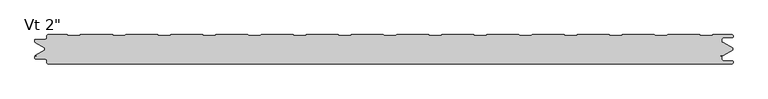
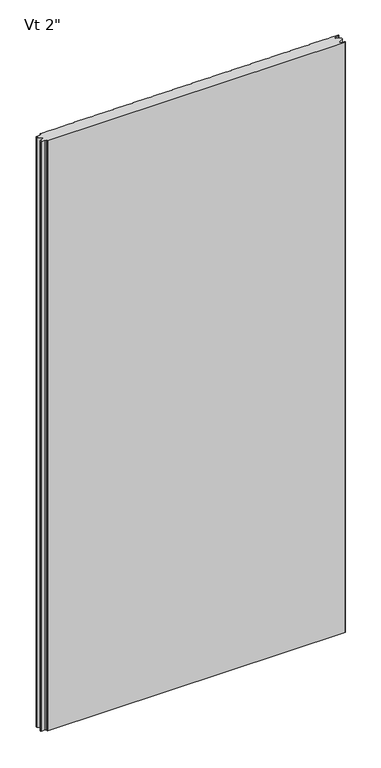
"""IFC4 building model written with IfcOpenShell, lengths in millimetres: plate geometry."""

from ifc_helpers import new_model, si_unit, frame, origin, place, context, project, spatial, polyline, circle_curve, source, transform, mapped, element, save
from ifc_brep_helpers import plane_surface, cylinder_surface, revolved_surface, advanced_brep


def plate_cbcabc05(model_context):
    return source(origin(), model_context, "Body", "AdvancedBrep", [
        advanced_brep(
        [(-572.4119006, -2.9775467, 2400.0), (-572.4119006, -5.2690127, 2400.0), (-576.3894926, -9.2466047, 2400.0), (-591.9862817, -9.2466047, 2400.0), (-592.5740768, -9.8343998, 2400.0), (-592.5740768, -12.9058755, 2400.0), (-591.986223, -13.4937293, 2400.0), (-589.6312064, -13.4937293, 2400.0), (-589.6312064, -14.4937446, 2400.0), (-591.9207851, -14.4937446, 2400.0), (-576.2625, -23.7509179, 2400.0), (-576.2625, -27.0490865, 2400.0), (-591.9207851, -36.3062598, 2400.0), (-589.6312064, -36.3062598, 2400.0), (-589.6312064, -37.3062598, 2400.0), (-591.986242, -37.3062598, 2400.0), (-592.5741186, -37.8941365, 2400.0), (-592.5741186, -40.9656854, 2400.0), (-591.9862417, -41.5535623, 2400.0), (-576.3898173, -41.5535623, 2400.0), (-572.4125501, -45.5308295, 2400.0), (-572.4125501, -47.8227194, 2400.0), (-570.4352761, -49.7999935, 2400.0), (574.5475652, -49.8, 2400.0), (576.5248337, -47.8227315, 2400.0), (576.5248337, -46.7806329, 2400.0), (574.5475652, -44.8033643, 2400.0), (560.3591802, -44.8033643, 2400.0), (557.7713036, -42.2154878, 2400.0), (557.7713036, -37.8950697, 2400.0), (557.1628365, -37.3060762, 2400.0), (554.7857432, -37.3060762, 2400.0), (554.7857432, -36.3066023, 2400.0), (560.2280123, -36.3066023, 2400.0), (576.2625, -27.0490865, 2400.0), (576.2625, -23.7509179, 2400.0), (560.2280123, -14.4934021, 2400.0), (554.7857432, -14.4934021, 2400.0), (554.7857432, -13.4939418, 2400.0), (557.1628475, -13.4939418, 2400.0), (557.7713476, -12.9049279, 2400.0), (557.7713476, -8.5845971, 2400.0), (560.3591411, -5.9968035, 2400.0), (574.5478903, -5.9968035, 2400.0), (576.5254845, -4.0192093, 2400.0), (576.5254845, -2.9770147, 2400.0), (574.548995, -1.0005251, 2400.0), (542.3760351, -1.0005251, 2400.0), (541.3035142, -2.1911639, 2400.0), (521.5205195, -2.1911639, 2400.0), (520.4479947, -1.0000044, 2400.0), (466.7534187, -1.0000044, 2400.0), (465.6808939, -2.1911639, 2400.0), (445.8978992, -2.1911639, 2400.0), (444.8253744, -1.0000044, 2400.0), (391.1307985, -1.0000044, 2400.0), (390.0582736, -2.1911639, 2400.0), (370.275279, -2.1911639, 2400.0), (369.2027541, -1.0000044, 2400.0), (315.5081782, -1.0000044, 2400.0), (314.4356534, -2.1911639, 2400.0), (294.6526587, -2.1911639, 2400.0), (293.5801339, -1.0000044, 2400.0), (239.885558, -1.0000044, 2400.0), (238.8130331, -2.1911639, 2400.0), (219.0300384, -2.1911639, 2400.0), (217.9575136, -1.0000044, 2400.0), (164.2629377, -1.0000044, 2400.0), (163.1904129, -2.1911639, 2400.0), (143.4074182, -2.1911639, 2400.0), (142.3348933, -1.0000044, 2400.0), (88.6403174, -1.0000044, 2400.0), (87.5677926, -2.1911639, 2400.0), (67.7847979, -2.1911639, 2400.0), (66.7122731, -1.0000044, 2400.0), (13.0176972, -1.0000044, 2400.0), (11.9451723, -2.1911639, 2400.0), (-7.8378224, -2.1911639, 2400.0), (-8.9103472, -1.0000044, 2400.0), (-62.6049231, -1.0000044, 2400.0), (-63.6774479, -2.1911639, 2400.0), (-83.4604426, -2.1911639, 2400.0), (-84.5329675, -1.0000044, 2400.0), (-138.2275434, -1.0000044, 2400.0), (-139.3000682, -2.1911639, 2400.0), (-159.0830629, -2.1911639, 2400.0), (-160.1555877, -1.0000044, 2400.0), (-213.8501636, -1.0000044, 2400.0), (-214.9226885, -2.1911639, 2400.0), (-234.7056831, -2.1911639, 2400.0), (-235.778208, -1.0000044, 2400.0), (-289.4727839, -1.0000044, 2400.0), (-290.5453087, -2.1911639, 2400.0), (-310.3283034, -2.1911639, 2400.0), (-311.4008282, -1.0000044, 2400.0), (-365.0954042, -1.0000044, 2400.0), (-366.167929, -2.1911639, 2400.0), (-385.9509237, -2.1911639, 2400.0), (-387.0234485, -1.0000044, 2400.0), (-440.7180244, -1.0000044, 2400.0), (-441.7905493, -2.1911639, 2400.0), (-461.5735439, -2.1911639, 2400.0), (-462.6460688, -1.0000044, 2400.0), (-516.3406447, -1.0000044, 2400.0), (-517.4131695, -2.1911639, 2400.0), (-537.1961642, -2.1911639, 2400.0), (-538.268689, -0.9994917, 2400.0), (-570.4338456, -0.9994917, 2400.0), (-572.4119006, -2.9775467, 0.0), (-570.4338456, -0.9994917, 0.0), (-538.268689, -0.9994917, 0.0), (-537.1961642, -2.1911639, 0.0), (-517.4131695, -2.1911639, 0.0), (-516.3406447, -1.0000044, 0.0), (-462.6460688, -1.0000044, 0.0), (-461.5735439, -2.1911639, 0.0), (-441.7905493, -2.1911639, 0.0), (-440.7180244, -1.0000044, 0.0), (-387.0234485, -1.0000044, 0.0), (-385.9509237, -2.1911639, 0.0), (-366.167929, -2.1911639, 0.0), (-365.0954042, -1.0000044, 0.0), (-311.4008282, -1.0000044, 0.0), (-310.3283034, -2.1911639, 0.0), (-290.5453087, -2.1911639, 0.0), (-289.4727839, -1.0000044, 0.0), (-235.778208, -1.0000044, 0.0), (-234.7056831, -2.1911639, 0.0), (-214.9226885, -2.1911639, 0.0), (-213.8501636, -1.0000044, 0.0), (-160.1555877, -1.0000044, 0.0), (-159.0830629, -2.1911639, 0.0), (-139.3000682, -2.1911639, 0.0), (-138.2275434, -1.0000044, 0.0), (-84.5329675, -1.0000044, 0.0), (-83.4604426, -2.1911639, 0.0), (-63.6774479, -2.1911639, 0.0), (-62.6049231, -1.0000044, 0.0), (-8.9103472, -1.0000044, 0.0), (-7.8378224, -2.1911639, 0.0), (11.9451723, -2.1911639, 0.0), (13.0176972, -1.0000044, 0.0), (66.7122731, -1.0000044, 0.0), (67.7847979, -2.1911639, 0.0), (87.5677926, -2.1911639, 0.0), (88.6403174, -1.0000044, 0.0), (142.3348933, -1.0000044, 0.0), (143.4074182, -2.1911639, 0.0), (163.1904129, -2.1911639, 0.0), (164.2629377, -1.0000044, 0.0), (217.9575136, -1.0000044, 0.0), (219.0300384, -2.1911639, 0.0), (238.8130331, -2.1911639, 0.0), (239.885558, -1.0000044, 0.0), (293.5801339, -1.0000044, 0.0), (294.6526587, -2.1911639, 0.0), (314.4356534, -2.1911639, 0.0), (315.5081782, -1.0000044, 0.0), (369.2027541, -1.0000044, 0.0), (370.275279, -2.1911639, 0.0), (390.0582736, -2.1911639, 0.0), (391.1307985, -1.0000044, 0.0), (444.8253744, -1.0000044, 0.0), (445.8978992, -2.1911639, 0.0), (465.6808939, -2.1911639, 0.0), (466.7534187, -1.0000044, 0.0), (520.4479947, -1.0000044, 0.0), (521.5205195, -2.1911639, 0.0), (541.3035142, -2.1911639, 0.0), (542.3760351, -1.0005251, 0.0), (574.548995, -1.0005251, 0.0), (576.5254845, -2.9770147, 0.0), (576.5254845, -4.0192093, 0.0), (574.5478903, -5.9968035, 0.0), (560.3591411, -5.9968035, 0.0), (557.7713476, -8.5845971, 0.0), (557.7713476, -12.9049279, 0.0), (557.1628475, -13.4939418, 0.0), (554.7857432, -13.4939418, 0.0), (554.7857432, -14.4934021, 0.0), (560.2280123, -14.4934021, 0.0), (576.2625, -23.7509179, 0.0), (576.2625, -27.0490865, 0.0), (560.2280123, -36.3066023, 0.0), (554.7857432, -36.3066023, 0.0), (554.7857432, -37.3060762, 0.0), (557.1628365, -37.3060762, 0.0), (557.7713036, -37.8950697, 0.0), (557.7713036, -42.2154878, 0.0), (560.3591802, -44.8033643, 0.0), (574.5475652, -44.8033643, 0.0), (576.5248337, -46.7806329, 0.0), (576.5248337, -47.8227315, 0.0), (574.5475652, -49.8, 0.0), (-570.4352761, -49.8, 0.0), (-572.4125501, -47.8227194, 0.0), (-572.4125501, -45.5308295, 0.0), (-576.3898173, -41.5535623, 0.0), (-591.9862417, -41.5535623, 0.0), (-592.5741186, -40.9656854, 0.0), (-592.5741186, -37.8941365, 0.0), (-591.986242, -37.3062598, 0.0), (-589.6312064, -37.3062598, 0.0), (-589.6312064, -36.3062598, 0.0), (-591.9207851, -36.3062598, 0.0), (-576.2625, -27.0490865, 0.0), (-576.2625, -23.7509179, 0.0), (-591.9207851, -14.4937446, 0.0), (-589.6312064, -14.4937446, 0.0), (-589.6312064, -13.4937293, 0.0), (-591.986223, -13.4937293, 0.0), (-592.5740768, -12.9058755, 0.0), (-592.5740768, -9.8343998, 0.0), (-591.9862817, -9.2466047, 0.0), (-576.3894926, -9.2466047, 0.0), (-572.4119006, -5.2690127, 0.0)],
        [
            (0, 1),
            (1, 2, circle_curve(frame((-576.3894926, -5.2690127, 2400.0), z_axis=(0.0, 0.0, -1.0), x_axis=(0.0, 1.0, 0.0)), 3.977592)),
            (2, 3),
            (3, 4, circle_curve(frame((-591.9862817, -9.8343998, 2400.0), z_axis=(0.0, 0.0, 1.0), x_axis=(0.0, 1.0, 0.0)), 0.5877951)),
            (4, 5),
            (5, 6, circle_curve(frame((-591.986223, -12.9058755, 2400.0), z_axis=(0.0, 0.0, 1.0), x_axis=(0.0, 1.0, 0.0)), 0.5878538)),
            (6, 7),
            (7, 8),
            (8, 9),
            (9, 10),
            (10, 11),
            (11, 12),
            (12, 13),
            (13, 14),
            (14, 15),
            (15, 16, circle_curve(frame((-591.986242, -37.8941365, 2400.0), z_axis=(0.0, 0.0, 1.0), x_axis=(0.0, 1.0, 0.0)), 0.5878766)),
            (16, 17),
            (17, 18, circle_curve(frame((-591.9862417, -40.9656854, 2400.0), z_axis=(0.0, 0.0, 1.0), x_axis=(0.0, 1.0, 0.0)), 0.5878769)),
            (18, 19),
            (19, 20, circle_curve(frame((-576.3898173, -45.5308295, 2400.0), z_axis=(0.0, 0.0, -1.0), x_axis=(0.0, 1.0, 0.0)), 3.9772671)),
            (20, 21),
            (21, 22, circle_curve(frame((-570.4352761, -47.8227194, 2400.0), z_axis=(0.0, 0.0, 1.0), x_axis=(0.0, 1.0, 0.0)), 1.977274)),
            (22, 23),
            (23, 24, circle_curve(frame((574.5475652, -47.8227315, 2400.0), z_axis=(0.0, 0.0, 1.0), x_axis=(0.0, 1.0, 0.0)), 1.9772685)),
            (24, 25),
            (25, 26, circle_curve(frame((574.5475652, -46.7806329, 2400.0), z_axis=(0.0, 0.0, 1.0), x_axis=(0.0, 1.0, 0.0)), 1.9772685)),
            (26, 27),
            (27, 28, circle_curve(frame((560.3591802, -42.2154878, 2400.0), z_axis=(0.0, 0.0, -1.0), x_axis=(0.0, 1.0, 0.0)), 2.5878765)),
            (28, 29),
            (29, 30, circle_curve(frame((557.1819985, -37.8950697, 2400.0), z_axis=(0.0, 0.0, 1.0), x_axis=(0.0, 1.0, 0.0)), 0.5893051)),
            (30, 31),
            (31, 32),
            (32, 33),
            (33, 34),
            (34, 35),
            (35, 36),
            (36, 37),
            (37, 38),
            (38, 39),
            (39, 40, circle_curve(frame((557.1820216, -12.9049279, 2400.0), z_axis=(0.0, 0.0, 1.0), x_axis=(0.0, 1.0, 0.0)), 0.589326)),
            (40, 41),
            (41, 42, circle_curve(frame((560.3591411, -8.5845971, 2400.0), z_axis=(0.0, 0.0, -1.0), x_axis=(0.0, 1.0, 0.0)), 2.5877935)),
            (42, 43),
            (43, 44, circle_curve(frame((574.5478903, -4.0192093, 2400.0), z_axis=(0.0, 0.0, 1.0), x_axis=(0.0, 1.0, 0.0)), 1.9775943)),
            (44, 45),
            (45, 46, circle_curve(frame((574.548995, -2.9770147, 2400.0), z_axis=(0.0, 0.0, 1.0), x_axis=(0.0, 1.0, 0.0)), 1.9764896)),
            (46, 47),
            (47, 48),
            (48, 49),
            (49, 50),
            (50, 51),
            (51, 52),
            (52, 53),
            (53, 54),
            (54, 55),
            (55, 56),
            (56, 57),
            (57, 58),
            (58, 59),
            (59, 60),
            (60, 61),
            (61, 62),
            (62, 63),
            (63, 64),
            (64, 65),
            (65, 66),
            (66, 67),
            (67, 68),
            (68, 69),
            (69, 70),
            (70, 71),
            (71, 72),
            (72, 73),
            (73, 74),
            (74, 75),
            (75, 76),
            (76, 77),
            (77, 78),
            (78, 79),
            (79, 80),
            (80, 81),
            (81, 82),
            (82, 83),
            (83, 84),
            (84, 85),
            (85, 86),
            (86, 87),
            (87, 88),
            (88, 89),
            (89, 90),
            (90, 91),
            (91, 92),
            (92, 93),
            (93, 94),
            (94, 95),
            (95, 96),
            (96, 97),
            (97, 98),
            (98, 99),
            (99, 100),
            (100, 101),
            (101, 102),
            (102, 103),
            (103, 104),
            (104, 105),
            (105, 106),
            (106, 107),
            (107, 0, circle_curve(frame((-570.4338456, -2.9775467, 2400.0), z_axis=(0.0, 0.0, 1.0), x_axis=(0.0, 1.0, 0.0)), 1.978055)),
            (108, 109, circle_curve(frame((-570.4338456, -2.9775467, 0.0), z_axis=(0.0, 0.0, -1.0), x_axis=(0.0, 1.0, 0.0)), 1.978055)),
            (109, 110),
            (110, 111),
            (111, 112),
            (112, 113),
            (113, 114),
            (114, 115),
            (115, 116),
            (116, 117),
            (117, 118),
            (118, 119),
            (119, 120),
            (120, 121),
            (121, 122),
            (122, 123),
            (123, 124),
            (124, 125),
            (125, 126),
            (126, 127),
            (127, 128),
            (128, 129),
            (129, 130),
            (130, 131),
            (131, 132),
            (132, 133),
            (133, 134),
            (134, 135),
            (135, 136),
            (136, 137),
            (137, 138),
            (138, 139),
            (139, 140),
            (140, 141),
            (141, 142),
            (142, 143),
            (143, 144),
            (144, 145),
            (145, 146),
            (146, 147),
            (147, 148),
            (148, 149),
            (149, 150),
            (150, 151),
            (151, 152),
            (152, 153),
            (153, 154),
            (154, 155),
            (155, 156),
            (156, 157),
            (157, 158),
            (158, 159),
            (159, 160),
            (160, 161),
            (161, 162),
            (162, 163),
            (163, 164),
            (164, 165),
            (165, 166),
            (166, 167),
            (167, 168),
            (168, 169),
            (169, 170),
            (170, 171, circle_curve(frame((574.548995, -2.9770147, 0.0), z_axis=(0.0, 0.0, -1.0), x_axis=(0.0, 1.0, 0.0)), 1.9764896)),
            (171, 172),
            (172, 173, circle_curve(frame((574.5478903, -4.0192093, 0.0), z_axis=(0.0, 0.0, -1.0), x_axis=(0.0, 1.0, 0.0)), 1.9775943)),
            (173, 174),
            (174, 175, circle_curve(frame((560.3591411, -8.5845971, 0.0), z_axis=(0.0, 0.0, 1.0), x_axis=(0.0, 1.0, 0.0)), 2.5877935)),
            (175, 176),
            (176, 177, circle_curve(frame((557.1820216, -12.9049279, 0.0), z_axis=(0.0, 0.0, -1.0), x_axis=(0.0, 1.0, 0.0)), 0.589326)),
            (177, 178),
            (178, 179),
            (179, 180),
            (180, 181),
            (181, 182),
            (182, 183),
            (183, 184),
            (184, 185),
            (185, 186),
            (186, 187, circle_curve(frame((557.1819985, -37.8950697, 0.0), z_axis=(0.0, 0.0, -1.0), x_axis=(0.0, 1.0, 0.0)), 0.5893051)),
            (187, 188),
            (188, 189, circle_curve(frame((560.3591802, -42.2154878, 0.0), z_axis=(0.0, 0.0, 1.0), x_axis=(0.0, 1.0, 0.0)), 2.5878765)),
            (189, 190),
            (190, 191, circle_curve(frame((574.5475652, -46.7806329, 0.0), z_axis=(0.0, 0.0, -1.0), x_axis=(0.0, 1.0, 0.0)), 1.9772685)),
            (191, 192),
            (192, 193, circle_curve(frame((574.5475652, -47.8227315, 0.0), z_axis=(0.0, 0.0, -1.0), x_axis=(0.0, 1.0, 0.0)), 1.9772685)),
            (193, 194),
            (194, 195, circle_curve(frame((-570.4352761, -47.8227194, 0.0), z_axis=(0.0, 0.0, -1.0), x_axis=(0.0, 1.0, 0.0)), 1.977274)),
            (195, 196),
            (196, 197, circle_curve(frame((-576.3898173, -45.5308295, 0.0), z_axis=(0.0, 0.0, 1.0), x_axis=(0.0, 1.0, 0.0)), 3.9772671)),
            (197, 198),
            (198, 199, circle_curve(frame((-591.9862417, -40.9656854, 0.0), z_axis=(0.0, 0.0, -1.0), x_axis=(0.0, 1.0, 0.0)), 0.5878769)),
            (199, 200),
            (200, 201, circle_curve(frame((-591.986242, -37.8941365, 0.0), z_axis=(0.0, 0.0, -1.0), x_axis=(0.0, 1.0, 0.0)), 0.5878766)),
            (201, 202),
            (202, 203),
            (203, 204),
            (204, 205),
            (205, 206),
            (206, 207),
            (207, 208),
            (208, 209),
            (209, 210),
            (210, 211, circle_curve(frame((-591.986223, -12.9058755, 0.0), z_axis=(0.0, 0.0, -1.0), x_axis=(0.0, 1.0, 0.0)), 0.5878538)),
            (211, 212),
            (212, 213, circle_curve(frame((-591.9862817, -9.8343998, 0.0), z_axis=(0.0, 0.0, -1.0), x_axis=(0.0, 1.0, 0.0)), 0.5877951)),
            (213, 214),
            (214, 215, circle_curve(frame((-576.3894926, -5.2690127, 0.0), z_axis=(0.0, 0.0, 1.0), x_axis=(0.0, 1.0, 0.0)), 3.977592)),
            (215, 108),
            (107, 109),
            (108, 0),
            (215, 1),
            (214, 2),
            (213, 3),
            (212, 4),
            (211, 5),
            (210, 6),
            (209, 7),
            (208, 8),
            (207, 9),
            (36, 180),
            (179, 37),
            (178, 38),
            (177, 39),
            (176, 40),
            (175, 41),
            (174, 42),
            (173, 43),
            (172, 44),
            (171, 45),
            (170, 46),
            (35, 181),
            (206, 10),
            (21, 195),
            (194, 22),
            (20, 196),
            (19, 197),
            (18, 198),
            (17, 199),
            (16, 200),
            (15, 201),
            (14, 202),
            (13, 203),
            (12, 204),
            (32, 184),
            (183, 33),
            (31, 185),
            (30, 186),
            (29, 187),
            (28, 188),
            (27, 189),
            (26, 190),
            (25, 191),
            (24, 192),
            (23, 193),
            (182, 34),
            (11, 205),
            (169, 47),
            (48, 168),
            (167, 49),
            (166, 50),
            (165, 51),
            (164, 52),
            (163, 53),
            (162, 54),
            (161, 55),
            (160, 56),
            (159, 57),
            (158, 58),
            (157, 59),
            (156, 60),
            (155, 61),
            (154, 62),
            (153, 63),
            (152, 64),
            (151, 65),
            (150, 66),
            (149, 67),
            (148, 68),
            (147, 69),
            (146, 70),
            (145, 71),
            (144, 72),
            (143, 73),
            (142, 74),
            (141, 75),
            (140, 76),
            (139, 77),
            (138, 78),
            (137, 79),
            (136, 80),
            (135, 81),
            (134, 82),
            (133, 83),
            (132, 84),
            (131, 85),
            (130, 86),
            (129, 87),
            (128, 88),
            (127, 89),
            (126, 90),
            (125, 91),
            (124, 92),
            (123, 93),
            (122, 94),
            (121, 95),
            (120, 96),
            (119, 97),
            (118, 98),
            (117, 99),
            (116, 100),
            (115, 101),
            (114, 102),
            (113, 103),
            (112, 104),
            (111, 105),
            (110, 106),
        ],
        [
            plane_surface(frame((0.0, -49.8, 2400.0), z_axis=(0.0, 0.0, 1.0), x_axis=(0.0, -1.0, 0.0))),
            plane_surface(frame((0.0, -49.8, 0.0), z_axis=(0.0, 0.0, -1.0), x_axis=(0.0, -1.0, 0.0))),
            cylinder_surface(frame((-570.4338456, -2.9775467, 2400.0), z_axis=(0.0, 0.0, 1.0), x_axis=(0.0, 1.0, 0.0)), 1.978055),
            plane_surface(frame((-572.4119006, -5.2690127, 2400.0), z_axis=(-1.0, 0.0, 0.0), x_axis=(0.0, 0.0, -1.0))),
            revolved_surface(polyline([(-576.3894926, -1.2914207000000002, 0.0), (-576.3894926, -1.2914207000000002, 2400.0)]), (-576.3894926, -5.2690127, 2400.0), (0.0, 0.0, -1.0)),
            plane_surface(frame((-591.9862817, -9.2466047, 2400.0), z_axis=(0.0, 1.0, 0.0), x_axis=(0.0, 0.0, -1.0))),
            cylinder_surface(frame((-591.9862817, -9.8343998, 2400.0), z_axis=(0.0, 0.0, 1.0), x_axis=(0.0, 1.0, 0.0)), 0.5877951),
            plane_surface(frame((-592.5740768, -12.9058755, 2400.0), z_axis=(-1.0, 0.0, 0.0), x_axis=(0.0, 0.0, -1.0))),
            cylinder_surface(frame((-591.986223, -12.9058755, 2400.0), z_axis=(0.0, 0.0, 1.0), x_axis=(0.0, 1.0, 0.0)), 0.5878538),
            plane_surface(frame((-589.6312064, -13.4937293, 2400.0), z_axis=(0.0, -1.0, 0.0), x_axis=(0.0, 0.0, -1.0))),
            plane_surface(frame((-589.6312064, -14.4937446, 2400.0), z_axis=(-1.0, 0.0, 0.0), x_axis=(0.0, 0.0, -1.0))),
            plane_surface(frame((-591.9207851, -14.4937446, 2400.0), z_axis=(0.0, 1.0, 0.0), x_axis=(0.0, 0.0, -1.0))),
            plane_surface(frame((554.7857432, -14.4934021, 2400.0), z_axis=(0.0, 1.0, 0.0), x_axis=(0.0, 0.0, -1.0))),
            plane_surface(frame((554.7857432, -13.4939418, 2400.0), z_axis=(1.0, 0.0, 0.0), x_axis=(0.0, 0.0, -1.0))),
            plane_surface(frame((557.1628475, -13.4939418, 2400.0), z_axis=(0.0, -1.0, 0.0), x_axis=(0.0, 0.0, -1.0))),
            cylinder_surface(frame((557.1820216, -12.9049279, 2400.0), z_axis=(0.0, 0.0, 1.0), x_axis=(0.0, 1.0, 0.0)), 0.589326),
            plane_surface(frame((557.7713476, -8.5845971, 2400.0), z_axis=(1.0, 0.0, 0.0), x_axis=(0.0, 0.0, -1.0))),
            revolved_surface(polyline([(560.3591411, -5.9968036, 0.0), (560.3591411, -5.9968036, 2400.0)]), (560.3591411, -8.5845971, 2400.0), (0.0, 0.0, -1.0)),
            plane_surface(frame((574.5478903, -5.9968035, 2400.0), z_axis=(0.0, -1.0, 0.0), x_axis=(0.0, 0.0, -1.0))),
            cylinder_surface(frame((574.5478903, -4.0192093, 2400.0), z_axis=(0.0, 0.0, 1.0), x_axis=(0.0, 1.0, 0.0)), 1.9775943),
            plane_surface(frame((576.5254845, -2.9770147, 2400.0), z_axis=(1.0, 0.0, 0.0), x_axis=(0.0, 0.0, -1.0))),
            cylinder_surface(frame((574.548995, -2.9770147, 2400.0), z_axis=(0.0, 0.0, 1.0), x_axis=(0.0, 1.0, 0.0)), 1.9764896),
            plane_surface(frame((560.2280123, -14.4934021, 2400.0), z_axis=(0.500000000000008, 0.8660254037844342, 0.0), x_axis=(0.0, 0.0, -1.0))),
            plane_surface(frame((-576.2625, -23.7509179, 2400.0), z_axis=(-0.5089147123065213, -0.860816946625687, 0.0), x_axis=(0.0, 0.0, -1.0))),
            cylinder_surface(frame((-570.4352761, -47.8227194, 2400.0), z_axis=(0.0, 0.0, 1.0), x_axis=(0.0, 1.0, 0.0)), 1.977274),
            plane_surface(frame((-572.4125501, -47.8227194, 2400.0), z_axis=(-1.0, 0.0, 0.0), x_axis=(0.0, 0.0, -1.0))),
            revolved_surface(polyline([(-576.3898173, -41.553562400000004, 0.0), (-576.3898173, -41.553562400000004, 2400.0)]), (-576.3898173, -45.5308295, 2400.0), (0.0, 0.0, -1.0)),
            plane_surface(frame((-576.3898173, -41.5535623, 2400.0), z_axis=(0.0, -1.0, 0.0), x_axis=(0.0, 0.0, -1.0))),
            cylinder_surface(frame((-591.9862417, -40.9656854, 2400.0), z_axis=(0.0, 0.0, 1.0), x_axis=(0.0, 1.0, 0.0)), 0.5878769),
            plane_surface(frame((-592.5741186, -40.9656854, 2400.0), z_axis=(-1.0, 0.0, 0.0), x_axis=(0.0, 0.0, -1.0))),
            cylinder_surface(frame((-591.986242, -37.8941365, 2400.0), z_axis=(0.0, 0.0, 1.0), x_axis=(0.0, 1.0, 0.0)), 0.5878766),
            plane_surface(frame((-591.986242, -37.3062598, 2400.0), z_axis=(0.0, 1.0, 0.0), x_axis=(0.0, 0.0, -1.0))),
            plane_surface(frame((-589.6312064, -37.3062598, 2400.0), z_axis=(-1.0, 0.0, 0.0), x_axis=(0.0, 0.0, -1.0))),
            plane_surface(frame((-589.6312064, -36.3062598, 2400.0), z_axis=(0.0, -1.0, 0.0), x_axis=(0.0, 0.0, -1.0))),
            plane_surface(frame((560.2280123, -36.3066023, 2400.0), z_axis=(0.0, -1.0, 0.0), x_axis=(0.0, 0.0, -1.0))),
            plane_surface(frame((554.7857432, -36.3066023, 2400.0), z_axis=(1.0, 0.0, 0.0), x_axis=(0.0, 0.0, -1.0))),
            plane_surface(frame((554.7857432, -37.3060762, 2400.0), z_axis=(0.0, 1.0, 0.0), x_axis=(0.0, 0.0, -1.0))),
            cylinder_surface(frame((557.1819985, -37.8950697, 2400.0), z_axis=(0.0, 0.0, 1.0), x_axis=(0.0, 1.0, 0.0)), 0.5893051),
            plane_surface(frame((557.7713036, -37.8950697, 2400.0), z_axis=(1.0, 0.0, 0.0), x_axis=(0.0, 0.0, -1.0))),
            revolved_surface(polyline([(560.3591802, -39.6276113, 0.0), (560.3591802, -39.6276113, 2400.0)]), (560.3591802, -42.2154878, 2400.0), (0.0, 0.0, -1.0)),
            plane_surface(frame((560.3591802, -44.8033643, 2400.0), z_axis=(0.0, 1.0, 0.0), x_axis=(0.0, 0.0, -1.0))),
            cylinder_surface(frame((574.5475652, -46.7806329, 2400.0), z_axis=(0.0, 0.0, 1.0), x_axis=(0.0, 1.0, 0.0)), 1.9772685),
            plane_surface(frame((576.5248337, -46.7806329, 2400.0), z_axis=(1.0, 0.0, 0.0), x_axis=(0.0, 0.0, -1.0))),
            cylinder_surface(frame((574.5475652, -47.8227315, 2400.0), z_axis=(0.0, 0.0, 1.0), x_axis=(0.0, 1.0, 0.0)), 1.9772685),
            plane_surface(frame((574.5475652, -49.8, 2400.0), z_axis=(0.0, -1.0, 0.0), x_axis=(0.0, 0.0, -1.0))),
            plane_surface(frame((576.2625, -27.0490865, 2400.0), z_axis=(0.500000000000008, -0.8660254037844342, 0.0), x_axis=(0.0, 0.0, -1.0))),
            plane_surface(frame((-591.9207851, -36.3062598, 2400.0), z_axis=(-0.5089147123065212, 0.860816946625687, 0.0), x_axis=(0.0, 0.0, -1.0))),
            plane_surface(frame((576.2625, -23.7509179, 2400.0), z_axis=(1.0, 0.0, 0.0), x_axis=(0.0, 0.0, -1.0))),
            plane_surface(frame((-576.2625, -27.0490865, 2400.0), z_axis=(-1.0, 0.0, 0.0), x_axis=(0.0, 0.0, -1.0))),
            plane_surface(frame((542.3760351, -1.0005251, 2400.0), z_axis=(0.0, 1.0, 0.0), x_axis=(0.0, 0.0, -1.0))),
            plane_surface(frame((521.5205195, -2.1911639, 2400.0), z_axis=(0.0, 1.0, 0.0), x_axis=(0.0, 0.0, -1.0))),
            plane_surface(frame((520.4479947, -1.0000044, 2400.0), z_axis=(0.7431448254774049, 0.6691306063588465, 0.0), x_axis=(0.0, 0.0, -1.0))),
            plane_surface(frame((466.7534187, -1.0000044, 2400.0), z_axis=(0.0, 1.0, 0.0), x_axis=(0.0, 0.0, -1.0))),
            plane_surface(frame((465.6808939, -2.1911639, 2400.0), z_axis=(-0.7431448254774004, 0.6691306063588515, 0.0), x_axis=(0.0, 0.0, -1.0))),
            plane_surface(frame((445.8978992, -2.1911639, 2400.0), z_axis=(0.0, 1.0, 0.0), x_axis=(0.0, 0.0, -1.0))),
            plane_surface(frame((444.8253744, -1.0000044, 2400.0), z_axis=(0.7431448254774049, 0.6691306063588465, 0.0), x_axis=(0.0, 0.0, -1.0))),
            plane_surface(frame((391.1307985, -1.0000044, 2400.0), z_axis=(0.0, 1.0, 0.0), x_axis=(0.0, 0.0, -1.0))),
            plane_surface(frame((390.0582736, -2.1911639, 2400.0), z_axis=(-0.7431448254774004, 0.6691306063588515, 0.0), x_axis=(0.0, 0.0, -1.0))),
            plane_surface(frame((370.275279, -2.1911639, 2400.0), z_axis=(0.0, 1.0, 0.0), x_axis=(0.0, 0.0, -1.0))),
            plane_surface(frame((369.2027541, -1.0000044, 2400.0), z_axis=(0.7431448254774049, 0.6691306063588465, 0.0), x_axis=(0.0, 0.0, -1.0))),
            plane_surface(frame((315.5081782, -1.0000044, 2400.0), z_axis=(0.0, 1.0, 0.0), x_axis=(0.0, 0.0, -1.0))),
            plane_surface(frame((314.4356534, -2.1911639, 2400.0), z_axis=(-0.7431448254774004, 0.6691306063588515, 0.0), x_axis=(0.0, 0.0, -1.0))),
            plane_surface(frame((294.6526587, -2.1911639, 2400.0), z_axis=(0.0, 1.0, 0.0), x_axis=(0.0, 0.0, -1.0))),
            plane_surface(frame((293.5801339, -1.0000044, 2400.0), z_axis=(0.7431448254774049, 0.6691306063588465, 0.0), x_axis=(0.0, 0.0, -1.0))),
            plane_surface(frame((239.885558, -1.0000044, 2400.0), z_axis=(0.0, 1.0, 0.0), x_axis=(0.0, 0.0, -1.0))),
            plane_surface(frame((238.8130331, -2.1911639, 2400.0), z_axis=(-0.7431448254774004, 0.6691306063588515, 0.0), x_axis=(0.0, 0.0, -1.0))),
            plane_surface(frame((219.0300384, -2.1911639, 2400.0), z_axis=(0.0, 1.0, 0.0), x_axis=(0.0, 0.0, -1.0))),
            plane_surface(frame((217.9575136, -1.0000044, 2400.0), z_axis=(0.7431448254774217, 0.6691306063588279, 0.0), x_axis=(0.0, 0.0, -1.0))),
            plane_surface(frame((164.2629377, -1.0000044, 2400.0), z_axis=(0.0, 1.0, 0.0), x_axis=(0.0, 0.0, -1.0))),
            plane_surface(frame((163.1904129, -2.1911639, 2400.0), z_axis=(-0.7431448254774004, 0.6691306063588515, 0.0), x_axis=(0.0, 0.0, -1.0))),
            plane_surface(frame((143.4074182, -2.1911639, 2400.0), z_axis=(0.0, 1.0, 0.0), x_axis=(0.0, 0.0, -1.0))),
            plane_surface(frame((142.3348933, -1.0000044, 2400.0), z_axis=(0.7431448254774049, 0.6691306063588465, 0.0), x_axis=(0.0, 0.0, -1.0))),
            plane_surface(frame((88.6403174, -1.0000044, 2400.0), z_axis=(0.0, 1.0, 0.0), x_axis=(0.0, 0.0, -1.0))),
            plane_surface(frame((87.5677926, -2.1911639, 2400.0), z_axis=(-0.7431448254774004, 0.6691306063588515, 0.0), x_axis=(0.0, 0.0, -1.0))),
            plane_surface(frame((67.7847979, -2.1911639, 2400.0), z_axis=(0.0, 1.0, 0.0), x_axis=(0.0, 0.0, -1.0))),
            plane_surface(frame((66.7122731, -1.0000044, 2400.0), z_axis=(0.7431448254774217, 0.6691306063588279, 0.0), x_axis=(0.0, 0.0, -1.0))),
            plane_surface(frame((13.0176972, -1.0000044, 2400.0), z_axis=(0.0, 1.0, 0.0), x_axis=(0.0, 0.0, -1.0))),
            plane_surface(frame((11.9451723, -2.1911639, 2400.0), z_axis=(-0.7431448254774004, 0.6691306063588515, 0.0), x_axis=(0.0, 0.0, -1.0))),
            plane_surface(frame((-7.8378224, -2.1911639, 2400.0), z_axis=(0.0, 1.0, 0.0), x_axis=(0.0, 0.0, -1.0))),
            plane_surface(frame((-8.9103472, -1.0000044, 2400.0), z_axis=(0.7431448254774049, 0.6691306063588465, 0.0), x_axis=(0.0, 0.0, -1.0))),
            plane_surface(frame((-62.6049231, -1.0000044, 2400.0), z_axis=(0.0, 1.0, 0.0), x_axis=(0.0, 0.0, -1.0))),
            plane_surface(frame((-63.6774479, -2.1911639, 2400.0), z_axis=(-0.7431448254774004, 0.6691306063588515, 0.0), x_axis=(0.0, 0.0, -1.0))),
            plane_surface(frame((-83.4604426, -2.1911639, 2400.0), z_axis=(0.0, 1.0, 0.0), x_axis=(0.0, 0.0, -1.0))),
            plane_surface(frame((-84.5329675, -1.0000044, 2400.0), z_axis=(0.7431448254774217, 0.6691306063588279, 0.0), x_axis=(0.0, 0.0, -1.0))),
            plane_surface(frame((-138.2275434, -1.0000044, 2400.0), z_axis=(0.0, 1.0, 0.0), x_axis=(0.0, 0.0, -1.0))),
            plane_surface(frame((-139.3000682, -2.1911639, 2400.0), z_axis=(-0.7431448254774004, 0.6691306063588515, 0.0), x_axis=(0.0, 0.0, -1.0))),
            plane_surface(frame((-159.0830629, -2.1911639, 2400.0), z_axis=(0.0, 1.0, 0.0), x_axis=(0.0, 0.0, -1.0))),
            plane_surface(frame((-160.1555877, -1.0000044, 2400.0), z_axis=(0.7431448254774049, 0.6691306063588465, 0.0), x_axis=(0.0, 0.0, -1.0))),
            plane_surface(frame((-213.8501636, -1.0000044, 2400.0), z_axis=(0.0, 1.0, 0.0), x_axis=(0.0, 0.0, -1.0))),
            plane_surface(frame((-214.9226885, -2.1911639, 2400.0), z_axis=(-0.7431448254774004, 0.6691306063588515, 0.0), x_axis=(0.0, 0.0, -1.0))),
            plane_surface(frame((-234.7056831, -2.1911639, 2400.0), z_axis=(0.0, 1.0, 0.0), x_axis=(0.0, 0.0, -1.0))),
            plane_surface(frame((-235.778208, -1.0000044, 2400.0), z_axis=(0.7431448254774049, 0.6691306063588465, 0.0), x_axis=(0.0, 0.0, -1.0))),
            plane_surface(frame((-289.4727839, -1.0000044, 2400.0), z_axis=(0.0, 1.0, 0.0), x_axis=(0.0, 0.0, -1.0))),
            plane_surface(frame((-290.5453087, -2.1911639, 2400.0), z_axis=(-0.7431448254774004, 0.6691306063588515, 0.0), x_axis=(0.0, 0.0, -1.0))),
            plane_surface(frame((-310.3283034, -2.1911639, 2400.0), z_axis=(0.0, 1.0, 0.0), x_axis=(0.0, 0.0, -1.0))),
            plane_surface(frame((-311.4008282, -1.0000044, 2400.0), z_axis=(0.7431448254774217, 0.6691306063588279, 0.0), x_axis=(0.0, 0.0, -1.0))),
            plane_surface(frame((-365.0954042, -1.0000044, 2400.0), z_axis=(0.0, 1.0, 0.0), x_axis=(0.0, 0.0, -1.0))),
            plane_surface(frame((-366.167929, -2.1911639, 2400.0), z_axis=(-0.7431448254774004, 0.6691306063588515, 0.0), x_axis=(0.0, 0.0, -1.0))),
            plane_surface(frame((-385.9509237, -2.1911639, 2400.0), z_axis=(0.0, 1.0, 0.0), x_axis=(0.0, 0.0, -1.0))),
            plane_surface(frame((-387.0234485, -1.0000044, 2400.0), z_axis=(0.7431448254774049, 0.6691306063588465, 0.0), x_axis=(0.0, 0.0, -1.0))),
            plane_surface(frame((-440.7180244, -1.0000044, 2400.0), z_axis=(0.0, 1.0, 0.0), x_axis=(0.0, 0.0, -1.0))),
            plane_surface(frame((-441.7905493, -2.1911639, 2400.0), z_axis=(-0.7431448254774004, 0.6691306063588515, 0.0), x_axis=(0.0, 0.0, -1.0))),
            plane_surface(frame((-461.5735439, -2.1911639, 2400.0), z_axis=(0.0, 1.0, 0.0), x_axis=(0.0, 0.0, -1.0))),
            plane_surface(frame((-462.6460688, -1.0000044, 2400.0), z_axis=(0.7431448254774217, 0.6691306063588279, 0.0), x_axis=(0.0, 0.0, -1.0))),
            plane_surface(frame((-516.3406447, -1.0000044, 2400.0), z_axis=(0.0, 1.0, 0.0), x_axis=(0.0, 0.0, -1.0))),
            plane_surface(frame((-517.4131695, -2.1911639, 2400.0), z_axis=(-0.7431448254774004, 0.6691306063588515, 0.0), x_axis=(0.0, 0.0, -1.0))),
            plane_surface(frame((-537.1961642, -2.1911639, 2400.0), z_axis=(0.0, 1.0, 0.0), x_axis=(0.0, 0.0, -1.0))),
            plane_surface(frame((-538.268689, -0.9994917, 2400.0), z_axis=(0.7432879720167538, 0.6689715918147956, 0.0), x_axis=(0.0, 0.0, -1.0))),
            plane_surface(frame((541.3035142, -2.1911639, 2400.0), z_axis=(-0.7430005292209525, 0.6692908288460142, 0.0), x_axis=(0.0, 0.0, -1.0))),
            plane_surface(frame((-570.4338456, -0.9994917, 2400.0), z_axis=(0.0, 1.0, 0.0), x_axis=(0.0, 0.0, -1.0))),
        ],
        [
            (0, [[1, 2, 3, 4, 5, 6, 7, 8, 9, 10, 11, 12, 13, 14, 15, 16, 17, 18, 19, 20, 21, 22, 23, 24, 25, 26, 27, 28, 29, 30, 31, 32, 33, 34, 35, 36, 37, 38, 39, 40, 41, 42, 43, 44, 45, 46, 47, 48, 49, 50, 51, 52, 53, 54, 55, 56, 57, 58, 59, 60, 61, 62, 63, 64, 65, 66, 67, 68, 69, 70, 71, 72, 73, 74, 75, 76, 77, 78, 79, 80, 81, 82, 83, 84, 85, 86, 87, 88, 89, 90, 91, 92, 93, 94, 95, 96, 97, 98, 99, 100, 101, 102, 103, 104, 105, 106, 107, 108]]),
            (1, [[109, 110, 111, 112, 113, 114, 115, 116, 117, 118, 119, 120, 121, 122, 123, 124, 125, 126, 127, 128, 129, 130, 131, 132, 133, 134, 135, 136, 137, 138, 139, 140, 141, 142, 143, 144, 145, 146, 147, 148, 149, 150, 151, 152, 153, 154, 155, 156, 157, 158, 159, 160, 161, 162, 163, 164, 165, 166, 167, 168, 169, 170, 171, 172, 173, 174, 175, 176, 177, 178, 179, 180, 181, 182, 183, 184, 185, 186, 187, 188, 189, 190, 191, 192, 193, 194, 195, 196, 197, 198, 199, 200, 201, 202, 203, 204, 205, 206, 207, 208, 209, 210, 211, 212, 213, 214, 215, 216]]),
            (2, [[217, -109, 218, -108]]),
            (3, [[-218, -216, 219, -1]]),
            (4, [[-219, -215, 220, -2]]),
            (5, [[-220, -214, 221, -3]]),
            (6, [[-221, -213, 222, -4]]),
            (7, [[-222, -212, 223, -5]]),
            (8, [[-223, -211, 224, -6]]),
            (9, [[-224, -210, 225, -7]]),
            (10, [[-225, -209, 226, -8]]),
            (11, [[-226, -208, 227, -9]]),
            (12, [[228, -180, 229, -37]]),
            (13, [[-229, -179, 230, -38]]),
            (14, [[-230, -178, 231, -39]]),
            (15, [[-231, -177, 232, -40]]),
            (16, [[-232, -176, 233, -41]]),
            (17, [[-233, -175, 234, -42]]),
            (18, [[-234, -174, 235, -43]]),
            (19, [[-235, -173, 236, -44]]),
            (20, [[-236, -172, 237, -45]]),
            (21, [[-237, -171, 238, -46]]),
            (22, [[239, -181, -228, -36]]),
            (23, [[-227, -207, 240, -10]]),
            (24, [[241, -195, 242, -22]]),
            (25, [[243, -196, -241, -21]]),
            (26, [[244, -197, -243, -20]]),
            (27, [[245, -198, -244, -19]]),
            (28, [[246, -199, -245, -18]]),
            (29, [[247, -200, -246, -17]]),
            (30, [[248, -201, -247, -16]]),
            (31, [[249, -202, -248, -15]]),
            (32, [[250, -203, -249, -14]]),
            (33, [[251, -204, -250, -13]]),
            (34, [[252, -184, 253, -33]]),
            (35, [[254, -185, -252, -32]]),
            (36, [[255, -186, -254, -31]]),
            (37, [[256, -187, -255, -30]]),
            (38, [[257, -188, -256, -29]]),
            (39, [[258, -189, -257, -28]]),
            (40, [[259, -190, -258, -27]]),
            (41, [[260, -191, -259, -26]]),
            (42, [[261, -192, -260, -25]]),
            (43, [[262, -193, -261, -24]]),
            (44, [[-242, -194, -262, -23]]),
            (45, [[-253, -183, 263, -34]]),
            (46, [[264, -205, -251, -12]]),
            (47, [[-263, -182, -239, -35]]),
            (48, [[-240, -206, -264, -11]]),
            (49, [[-238, -170, 265, -47]]),
            (50, [[266, -168, 267, -49]]),
            (51, [[-267, -167, 268, -50]]),
            (52, [[-268, -166, 269, -51]]),
            (53, [[-269, -165, 270, -52]]),
            (54, [[-270, -164, 271, -53]]),
            (55, [[-271, -163, 272, -54]]),
            (56, [[-272, -162, 273, -55]]),
            (57, [[-273, -161, 274, -56]]),
            (58, [[-274, -160, 275, -57]]),
            (59, [[-275, -159, 276, -58]]),
            (60, [[-276, -158, 277, -59]]),
            (61, [[-277, -157, 278, -60]]),
            (62, [[-278, -156, 279, -61]]),
            (63, [[-279, -155, 280, -62]]),
            (64, [[-280, -154, 281, -63]]),
            (65, [[-281, -153, 282, -64]]),
            (66, [[-282, -152, 283, -65]]),
            (67, [[-283, -151, 284, -66]]),
            (68, [[-284, -150, 285, -67]]),
            (69, [[-285, -149, 286, -68]]),
            (70, [[-286, -148, 287, -69]]),
            (71, [[-287, -147, 288, -70]]),
            (72, [[-288, -146, 289, -71]]),
            (73, [[-289, -145, 290, -72]]),
            (74, [[-290, -144, 291, -73]]),
            (75, [[-291, -143, 292, -74]]),
            (76, [[-292, -142, 293, -75]]),
            (77, [[-293, -141, 294, -76]]),
            (78, [[-294, -140, 295, -77]]),
            (79, [[-295, -139, 296, -78]]),
            (80, [[-296, -138, 297, -79]]),
            (81, [[-297, -137, 298, -80]]),
            (82, [[-298, -136, 299, -81]]),
            (83, [[-299, -135, 300, -82]]),
            (84, [[-300, -134, 301, -83]]),
            (85, [[-301, -133, 302, -84]]),
            (86, [[-302, -132, 303, -85]]),
            (87, [[-303, -131, 304, -86]]),
            (88, [[-304, -130, 305, -87]]),
            (89, [[-305, -129, 306, -88]]),
            (90, [[-306, -128, 307, -89]]),
            (91, [[-307, -127, 308, -90]]),
            (92, [[-308, -126, 309, -91]]),
            (93, [[-309, -125, 310, -92]]),
            (94, [[-310, -124, 311, -93]]),
            (95, [[-311, -123, 312, -94]]),
            (96, [[-312, -122, 313, -95]]),
            (97, [[-313, -121, 314, -96]]),
            (98, [[-314, -120, 315, -97]]),
            (99, [[-315, -119, 316, -98]]),
            (100, [[-316, -118, 317, -99]]),
            (101, [[-317, -117, 318, -100]]),
            (102, [[-318, -116, 319, -101]]),
            (103, [[-319, -115, 320, -102]]),
            (104, [[-320, -114, 321, -103]]),
            (105, [[-321, -113, 322, -104]]),
            (106, [[-322, -112, 323, -105]]),
            (107, [[-323, -111, 324, -106]]),
            (108, [[-265, -169, -266, -48]]),
            (109, [[-324, -110, -217, -107]]),
        ],
    ),
    ])


if __name__ == "__main__":
    model = new_model("IFC4")
    model_context = context("Model", 3, world=origin())
    ifc_project = project(units=[si_unit("LENGTHUNIT", "METRE", prefix="MILLI")], contexts=[model_context])
    site = spatial("IfcSite", under=ifc_project)
    building = spatial("IfcBuilding", under=site)
    placement = place(None, origin())
    plate_shape = plate_cbcabc05(model_context)
    element("IfcPlate", 1, ObjectType="KIP-SLI-FLI-R19-CP-Vt-FL_SL : Vt 2\"", at=placement, inside=building, context=model_context, shape_type="MappedRepresentation", body=[
        mapped(plate_shape, transform((0.0, 0.0, 0.0), x_axis=(1.0, 0.0, 0.0), y_axis=(0.0, 1.0, 0.0), z_axis=(0.0, 0.0, 1.0))),
    ])
    save(model, "model.ifc")
